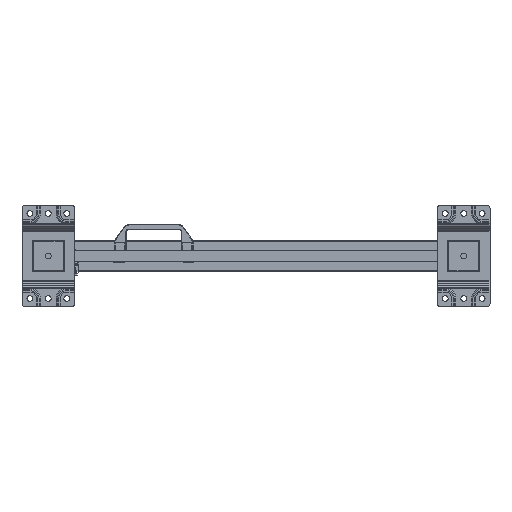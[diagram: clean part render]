
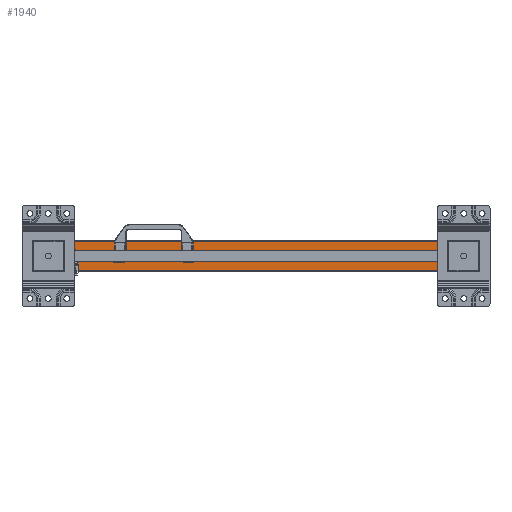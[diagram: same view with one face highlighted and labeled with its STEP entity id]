
A CAD part, front view. The second image highlights one B-rep face of the part: STEP entity #1940.
In plain terms, the highlighted planar face has unit normal (0, -1, 0).
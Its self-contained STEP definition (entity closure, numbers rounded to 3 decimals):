
#1940=ADVANCED_FACE('',(#5741),#5742,.T.);
#5741=FACE_OUTER_BOUND('',#11714,.T.);
#5742=PLANE('',#11715);
#11714=EDGE_LOOP('',(#19231,#19232,#19233,#19234));
#11715=AXIS2_PLACEMENT_3D('',#19235,#19236,#19237);
#19231=ORIENTED_EDGE('',*,*,#36022,.T.);
#19232=ORIENTED_EDGE('',*,*,#36023,.F.);
#19233=ORIENTED_EDGE('',*,*,#36024,.T.);
#19234=ORIENTED_EDGE('',*,*,#36012,.T.);
#19235=CARTESIAN_POINT('',(0.0,2539.0,30.));
#19236=DIRECTION('',(0.,-1.0,0.));
#19237=DIRECTION('',(-1.0,0.,0.0));
#36012=EDGE_CURVE('',#42922,#42920,#42923,.T.);
#36022=EDGE_CURVE('',#42920,#42935,#42936,.T.);
#36023=EDGE_CURVE('',#42937,#42935,#42938,.T.);
#36024=EDGE_CURVE('',#42937,#42922,#42939,.T.);
#42920=VERTEX_POINT('',#53050);
#42922=VERTEX_POINT('',#53053);
#42923=LINE('',#53054,#53055);
#42935=VERTEX_POINT('',#53073);
#42936=LINE('',#53074,#53075);
#42937=VERTEX_POINT('',#53076);
#42938=LINE('',#53077,#53078);
#42939=LINE('',#53079,#53080);
#53050=CARTESIAN_POINT('',(730.0,2539.0,-30.));
#53053=CARTESIAN_POINT('',(0.,2539.0,-30.));
#53054=CARTESIAN_POINT('',(0.,2539.0,-30.));
#53055=VECTOR('',#68364,10.0);
#53073=CARTESIAN_POINT('',(730.0,2539.0,30.));
#53074=CARTESIAN_POINT('',(730.0,2539.0,15.));
#53075=VECTOR('',#68371,1.0);
#53076=CARTESIAN_POINT('',(0.0,2539.0,30.));
#53077=CARTESIAN_POINT('',(0.0,2539.0,30.));
#53078=VECTOR('',#68372,10.0);
#53079=CARTESIAN_POINT('',(0.0,2539.0,30.));
#53080=VECTOR('',#68373,10.0);
#68364=DIRECTION('',(1.0,0.,0.));
#68371=DIRECTION('',(-0.0,0.,1.0));
#68372=DIRECTION('',(1.0,0.,0.));
#68373=DIRECTION('',(0.,0.,-1.0));
